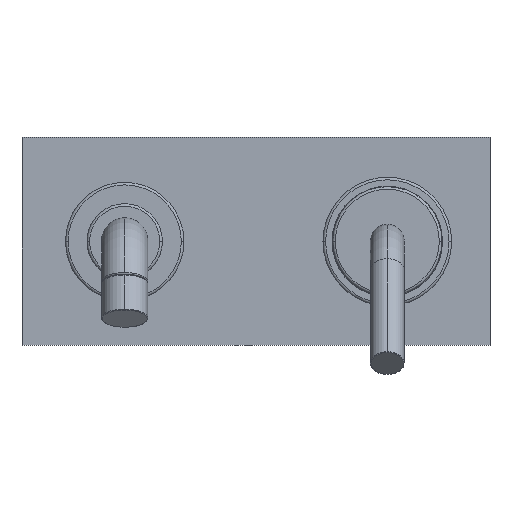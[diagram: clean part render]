
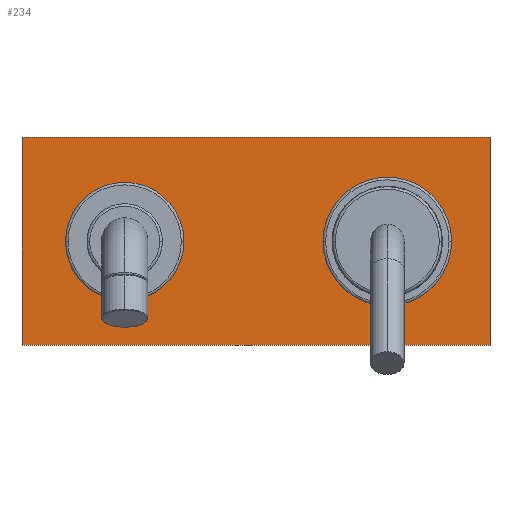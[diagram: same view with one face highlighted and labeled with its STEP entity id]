
A CAD part, top view. The second image highlights one B-rep face of the part: STEP entity #234.
In plain terms, the highlighted planar face has unit normal (0, 0, 1).
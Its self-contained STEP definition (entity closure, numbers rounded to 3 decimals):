
#19 = VERTEX_POINT ( 'NONE', #647 ) ;
#25 = DIRECTION ( 'NONE',  ( 0., 0., 1. ) ) ;
#42 = AXIS2_PLACEMENT_3D ( 'NONE', #57, #1491, #1194 ) ;
#55 = DIRECTION ( 'NONE',  ( -1., 0., 0. ) ) ;
#57 = CARTESIAN_POINT ( 'NONE',  ( 0., 0., 0. ) ) ;
#86 = EDGE_CURVE ( 'NONE', #350, #1315, #856, .T. ) ;
#95 = LINE ( 'NONE', #2019, #269 ) ;
#97 = ORIENTED_EDGE ( 'NONE', *, *, #722, .T. ) ;
#109 = VERTEX_POINT ( 'NONE', #1518 ) ;
#117 = LINE ( 'NONE', #1445, #1032 ) ;
#118 = ORIENTED_EDGE ( 'NONE', *, *, #447, .T. ) ;
#127 = EDGE_LOOP ( 'NONE', ( #707, #818 ) ) ;
#168 = VERTEX_POINT ( 'NONE', #1509 ) ;
#216 = CARTESIAN_POINT ( 'NONE',  ( 0., 0., 0. ) ) ;
#217 = CARTESIAN_POINT ( 'NONE',  ( -101.004, 0., 0. ) ) ;
#234 = ADVANCED_FACE ( 'NONE', ( #613, #1413, #2067 ), #257, .F. ) ;
#257 = PLANE ( 'NONE',  #1127 ) ;
#269 = VECTOR ( 'NONE', #1031, 1000. ) ;
#281 = AXIS2_PLACEMENT_3D ( 'NONE', #1085, #1526, #1069 ) ;
#350 = VERTEX_POINT ( 'NONE', #458 ) ;
#398 = DIRECTION ( 'NONE',  ( -1., 0., 0. ) ) ;
#403 = DIRECTION ( 'NONE',  ( 0., 0., -1. ) ) ;
#406 = EDGE_CURVE ( 'NONE', #1941, #19, #822, .T. ) ;
#445 = VERTEX_POINT ( 'NONE', #1014 ) ;
#447 = EDGE_CURVE ( 'NONE', #2065, #445, #1652, .T. ) ;
#448 = CARTESIAN_POINT ( 'NONE',  ( 0., 0., 0. ) ) ;
#458 = CARTESIAN_POINT ( 'NONE',  ( -24.75, 0., 0. ) ) ;
#536 = EDGE_CURVE ( 'NONE', #19, #1941, #1305, .T. ) ;
#558 = ORIENTED_EDGE ( 'NONE', *, *, #1156, .T. ) ;
#613 = FACE_BOUND ( 'NONE', #127, .T. ) ;
#647 = CARTESIAN_POINT ( 'NONE',  ( -123.786, 0., 0. ) ) ;
#655 = ORIENTED_EDGE ( 'NONE', *, *, #536, .F. ) ;
#675 = CARTESIAN_POINT ( 'NONE',  ( -140.504, 40.032, 0. ) ) ;
#707 = ORIENTED_EDGE ( 'NONE', *, *, #86, .F. ) ;
#722 = EDGE_CURVE ( 'NONE', #168, #2065, #117, .T. ) ;
#754 = AXIS2_PLACEMENT_3D ( 'NONE', #217, #25, #55 ) ;
#807 = ORIENTED_EDGE ( 'NONE', *, *, #406, .F. ) ;
#818 = ORIENTED_EDGE ( 'NONE', *, *, #1168, .F. ) ;
#820 = EDGE_LOOP ( 'NONE', ( #97, #118, #558, #1484 ) ) ;
#822 = CIRCLE ( 'NONE', #754, 22.783 ) ;
#830 = VECTOR ( 'NONE', #1503, 1000. ) ;
#850 = DIRECTION ( 'NONE',  ( 1., 0., 0. ) ) ;
#856 = CIRCLE ( 'NONE', #42, 24.75 ) ;
#857 = LINE ( 'NONE', #675, #830 ) ;
#874 = AXIS2_PLACEMENT_3D ( 'NONE', #216, #1671, #398 ) ;
#1014 = CARTESIAN_POINT ( 'NONE',  ( 39.496, -39.968, 0. ) ) ;
#1031 = DIRECTION ( 'NONE',  ( 0., 1., 0. ) ) ;
#1032 = VECTOR ( 'NONE', #1610, 1000. ) ;
#1046 = DIRECTION ( 'NONE',  ( -1., 0., 0. ) ) ;
#1069 = DIRECTION ( 'NONE',  ( -1., 0., 0. ) ) ;
#1085 = CARTESIAN_POINT ( 'NONE',  ( -101.004, 0., 0. ) ) ;
#1127 = AXIS2_PLACEMENT_3D ( 'NONE', #448, #403, #1046 ) ;
#1156 = EDGE_CURVE ( 'NONE', #445, #109, #95, .T. ) ;
#1168 = EDGE_CURVE ( 'NONE', #1315, #350, #1555, .T. ) ;
#1193 = CARTESIAN_POINT ( 'NONE',  ( -140.504, -39.968, 0. ) ) ;
#1194 = DIRECTION ( 'NONE',  ( -1., 0., 0. ) ) ;
#1248 = CARTESIAN_POINT ( 'NONE',  ( 24.75, 0., 0. ) ) ;
#1305 = CIRCLE ( 'NONE', #281, 22.783 ) ;
#1315 = VERTEX_POINT ( 'NONE', #1248 ) ;
#1397 = VECTOR ( 'NONE', #850, 1000. ) ;
#1406 = CARTESIAN_POINT ( 'NONE',  ( -78.221, 0., 0. ) ) ;
#1413 = FACE_BOUND ( 'NONE', #1848, .T. ) ;
#1445 = CARTESIAN_POINT ( 'NONE',  ( -140.504, -39.968, 0. ) ) ;
#1484 = ORIENTED_EDGE ( 'NONE', *, *, #1760, .T. ) ;
#1491 = DIRECTION ( 'NONE',  ( 0., 0., 1. ) ) ;
#1503 = DIRECTION ( 'NONE',  ( -1., 0., 0. ) ) ;
#1509 = CARTESIAN_POINT ( 'NONE',  ( -140.504, 40.032, 0. ) ) ;
#1514 = CARTESIAN_POINT ( 'NONE',  ( -140.504, -39.968, 0. ) ) ;
#1518 = CARTESIAN_POINT ( 'NONE',  ( 39.496, 40.032, 0. ) ) ;
#1526 = DIRECTION ( 'NONE',  ( 0., 0., 1. ) ) ;
#1555 = CIRCLE ( 'NONE', #874, 24.75 ) ;
#1610 = DIRECTION ( 'NONE',  ( 0., -1., 0. ) ) ;
#1652 = LINE ( 'NONE', #1514, #1397 ) ;
#1671 = DIRECTION ( 'NONE',  ( 0., 0., 1. ) ) ;
#1760 = EDGE_CURVE ( 'NONE', #109, #168, #857, .T. ) ;
#1848 = EDGE_LOOP ( 'NONE', ( #655, #807 ) ) ;
#1941 = VERTEX_POINT ( 'NONE', #1406 ) ;
#2019 = CARTESIAN_POINT ( 'NONE',  ( 39.496, -39.968, 0. ) ) ;
#2065 = VERTEX_POINT ( 'NONE', #1193 ) ;
#2067 = FACE_OUTER_BOUND ( 'NONE', #820, .T. ) ;
